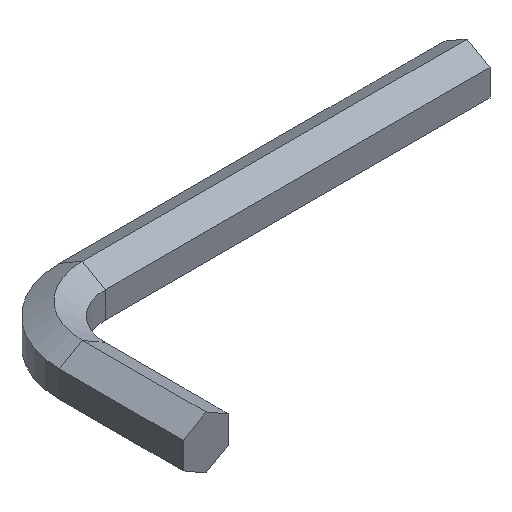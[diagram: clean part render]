
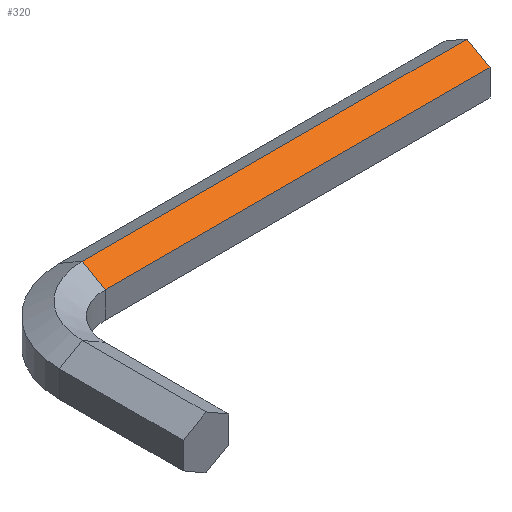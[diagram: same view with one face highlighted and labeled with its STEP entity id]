
A CAD part, isometric view. The second image highlights one B-rep face of the part: STEP entity #320.
In plain terms, the highlighted planar face has unit normal (0, -0.5, 0.866).
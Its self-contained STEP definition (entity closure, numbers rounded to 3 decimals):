
#44=FACE_OUTER_BOUND('',#64,.T.);
#64=EDGE_LOOP('',(#273,#274,#275,#276));
#90=LINE('',#519,#126);
#92=LINE('',#524,#128);
#101=LINE('',#541,#137);
#102=LINE('',#543,#138);
#126=VECTOR('',#430,10.);
#128=VECTOR('',#434,10.);
#137=VECTOR('',#451,10.);
#138=VECTOR('',#454,10.);
#152=VERTEX_POINT('',#498);
#156=VERTEX_POINT('',#515);
#157=VERTEX_POINT('',#521);
#162=VERTEX_POINT('',#539);
#192=EDGE_CURVE('',#152,#156,#90,.T.);
#194=EDGE_CURVE('',#157,#152,#92,.T.);
#203=EDGE_CURVE('',#162,#156,#101,.T.);
#204=EDGE_CURVE('',#162,#157,#102,.T.);
#273=ORIENTED_EDGE('',*,*,#204,.F.);
#274=ORIENTED_EDGE('',*,*,#203,.T.);
#275=ORIENTED_EDGE('',*,*,#192,.F.);
#276=ORIENTED_EDGE('',*,*,#194,.F.);
#300=PLANE('',#366);
#320=ADVANCED_FACE('',(#44),#300,.T.);
#366=AXIS2_PLACEMENT_3D('',#542,#452,#453);
#430=DIRECTION('',(0.,0.866,0.5));
#434=DIRECTION('',(-1.,0.,0.));
#451=DIRECTION('',(-1.,0.,0.));
#452=DIRECTION('center_axis',(0.,-0.5,0.866));
#453=DIRECTION('ref_axis',(0.,0.866,0.5));
#454=DIRECTION('',(0.,-0.866,-0.5));
#498=CARTESIAN_POINT('',(34.,63.,4.907));
#515=CARTESIAN_POINT('',(34.,71.5,9.815));
#519=CARTESIAN_POINT('',(34.,71.5,9.815));
#521=CARTESIAN_POINT('',(177.,63.,4.907));
#524=CARTESIAN_POINT('',(177.,63.,4.907));
#539=CARTESIAN_POINT('',(177.,71.5,9.815));
#541=CARTESIAN_POINT('',(177.,71.5,9.815));
#542=CARTESIAN_POINT('Origin',(177.,63.,4.907));
#543=CARTESIAN_POINT('',(177.,71.5,9.815));
